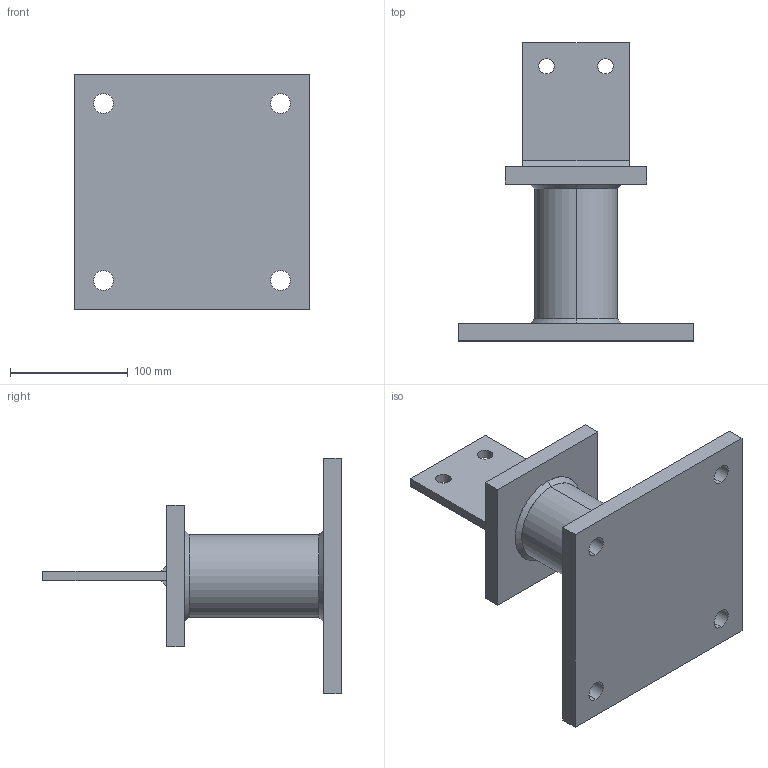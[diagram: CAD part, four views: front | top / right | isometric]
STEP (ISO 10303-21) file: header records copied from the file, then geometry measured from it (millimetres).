
FILE_DESCRIPTION (( 'STEP AP203' ), '1' );
FILE_NAME ('19812210.STEP', '2021-04-18T14:46:06', ( '' ), ( '' ), 'SwSTEP 2.0', 'SolidWorks 2013', '' );
FILE_SCHEMA (( 'CONFIG_CONTROL_DESIGN' ));
Length unit declared in the file: millimetre
Products named in the file (1): 19812210
Bounding box: 200 x 253 x 200 mm (x, y, z)
Volume: 1024295.7 mm3; surface area: 210797.3 mm2
Topology: 8 solids, 8 shells, 62 faces, 134 edges, 88 vertices
Faces by surface type: plane 34, cylinder 24, cone 4
Entity records: 1797 total; most frequent: DIRECTION 312, CARTESIAN_POINT 285, ORIENTED_EDGE 268, EDGE_CURVE 134, AXIS2_PLACEMENT_3D 115, VERTEX_POINT 88, VECTOR 82, LINE 82
